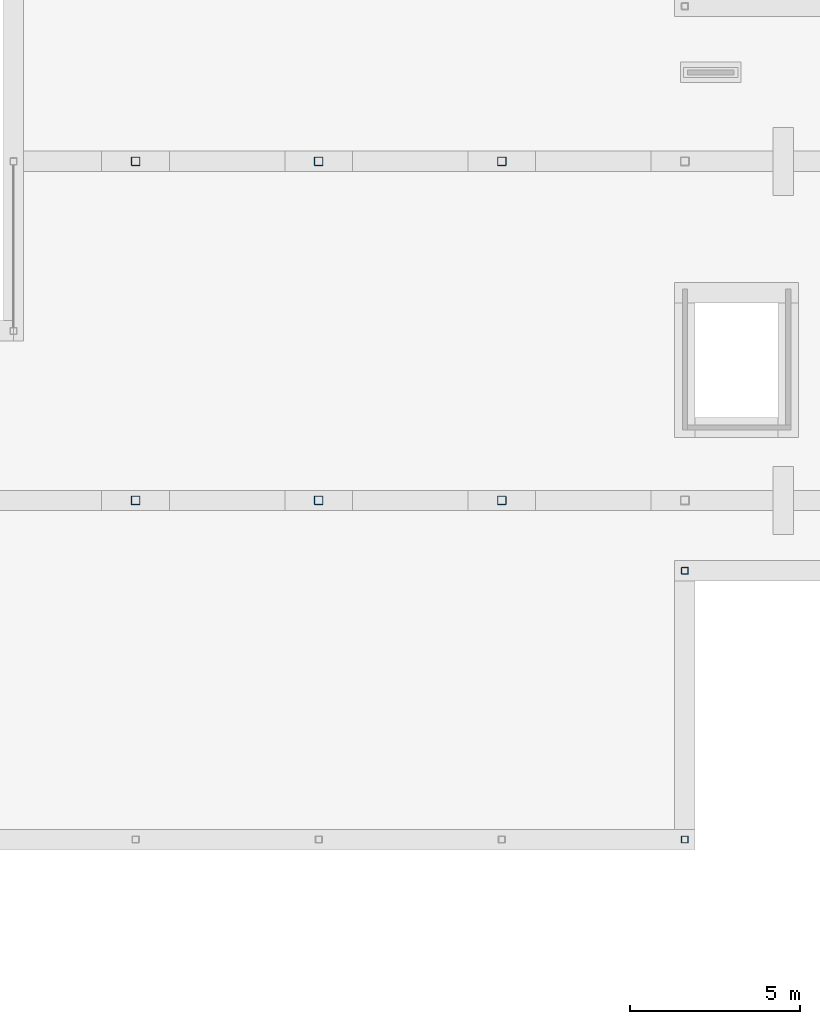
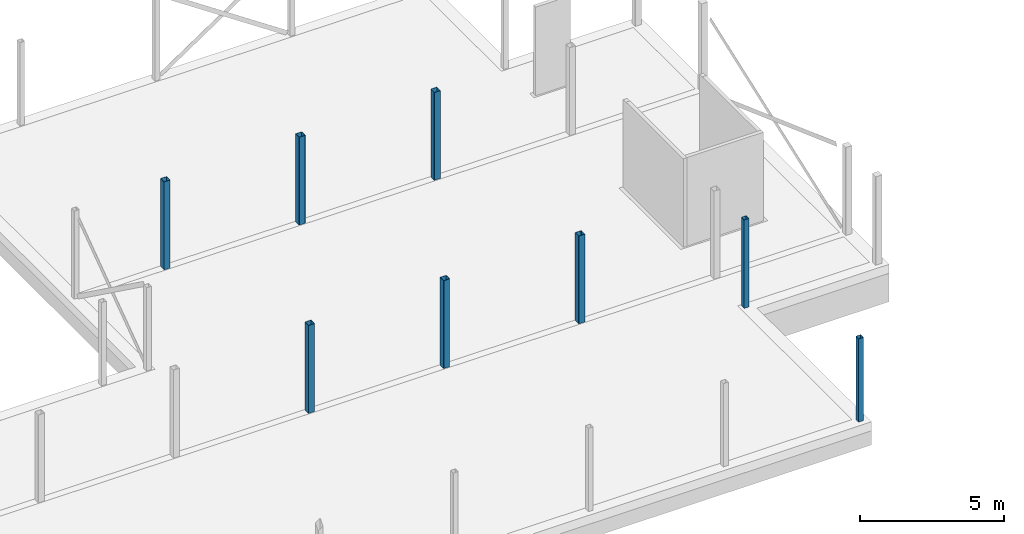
# One storey, part 3 of 12: 8 columns.
"""IFC2X3 building model written with IfcOpenShell, lengths in millimetres."""

from ifc_helpers import new_model, entity, si_unit, converted_unit, derived_unit, direction, frame, frame_2d, origin, place, context, subcontext, project, spatial, polyline, circle_curve, parameter, trimmed, segment, composite_curve, outline, extrude, source, transform, mapped, material, type_object, type_shapes, element, save


model = new_model("IFC2X3")

# Units and contexts
model_context = context("Model", 3, precision=0.01, world=origin(), true_north=direction((6.123031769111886e-17, 1.0)))
body_context = subcontext(model_context, "Body", "Model", "MODEL_VIEW")
ifc_project = project(units=[si_unit("LENGTHUNIT", "METRE", prefix="MILLI"), si_unit("AREAUNIT", "SQUARE_METRE"), si_unit("VOLUMEUNIT", "CUBIC_METRE"), converted_unit("PLANEANGLEUNIT", "DEGREE", entity("IfcPlaneAngleMeasure", 0.017453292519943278), si_unit("PLANEANGLEUNIT", "RADIAN"), dimensions=[0, 0, 0, 0, 0, 0, 0]), si_unit("MASSUNIT", "GRAM", prefix="KILO"), derived_unit("MASSDENSITYUNIT", [(si_unit("MASSUNIT", "GRAM", prefix="KILO"), 1), (si_unit("LENGTHUNIT", "METRE"), -3)]), derived_unit("IONCONCENTRATIONUNIT", [(si_unit("MASSUNIT", "GRAM", prefix="KILO"), 1), (si_unit("LENGTHUNIT", "METRE"), -3)]), derived_unit("MOMENTOFINERTIAUNIT", [(si_unit("LENGTHUNIT", "METRE"), 4)]), si_unit("TIMEUNIT", "SECOND"), si_unit("FREQUENCYUNIT", "HERTZ"), si_unit("THERMODYNAMICTEMPERATUREUNIT", "DEGREE_CELSIUS"), derived_unit("THERMALTRANSMITTANCEUNIT", [(si_unit("MASSUNIT", "GRAM", prefix="KILO"), 1), (si_unit("THERMODYNAMICTEMPERATUREUNIT", "KELVIN"), -1), (si_unit("TIMEUNIT", "SECOND"), -3)]), derived_unit("THERMALCONDUCTANCEUNIT", [(si_unit("MASSUNIT", "GRAM", prefix="KILO"), 1), (si_unit("THERMODYNAMICTEMPERATUREUNIT", "KELVIN"), -1), (si_unit("TIMEUNIT", "SECOND"), -3), (si_unit("LENGTHUNIT", "METRE"), 1)]), derived_unit("VOLUMETRICFLOWRATEUNIT", [(si_unit("LENGTHUNIT", "METRE", prefix="DECI"), 3), (si_unit("TIMEUNIT", "SECOND"), -1)]), derived_unit("MASSFLOWRATEUNIT", [(si_unit("MASSUNIT", "GRAM", prefix="KILO"), 1), (si_unit("TIMEUNIT", "SECOND"), -1)]), derived_unit("ROTATIONALFREQUENCYUNIT", [(si_unit("TIMEUNIT", "SECOND"), -1)]), si_unit("ELECTRICCURRENTUNIT", "AMPERE"), si_unit("ELECTRICVOLTAGEUNIT", "VOLT"), si_unit("POWERUNIT", "WATT"), si_unit("FORCEUNIT", "NEWTON", prefix="KILO"), si_unit("ILLUMINANCEUNIT", "LUX"), si_unit("LUMINOUSFLUXUNIT", "LUMEN"), si_unit("LUMINOUSINTENSITYUNIT", "CANDELA"), si_unit("ENERGYUNIT", "JOULE"), derived_unit("USERDEFINED", [(si_unit("MASSUNIT", "GRAM", prefix="KILO"), -1), (si_unit("LENGTHUNIT", "METRE"), -2), (si_unit("TIMEUNIT", "SECOND"), 3), (si_unit("LUMINOUSFLUXUNIT", "LUMEN"), 1)]), derived_unit("USERDEFINED", [(si_unit("MASSUNIT", "GRAM", prefix="KILO"), 1), (si_unit("TIMEUNIT", "SECOND"), -3), (si_unit("LENGTHUNIT", "METRE"), 3), (si_unit("ELECTRICCURRENTUNIT", "AMPERE"), -2)]), derived_unit("SOUNDPOWERUNIT", [(si_unit("MASSUNIT", "GRAM", prefix="KILO"), 1), (si_unit("TIMEUNIT", "SECOND"), -3), (si_unit("LENGTHUNIT", "METRE"), 2)]), derived_unit("SOUNDPRESSUREUNIT", [(si_unit("MASSUNIT", "GRAM", prefix="KILO"), 1), (si_unit("LENGTHUNIT", "METRE"), -1), (si_unit("TIMEUNIT", "SECOND"), -2)]), derived_unit("LINEARVELOCITYUNIT", [(si_unit("LENGTHUNIT", "METRE"), 1), (si_unit("TIMEUNIT", "SECOND"), -1)]), si_unit("PRESSUREUNIT", "PASCAL"), derived_unit("USERDEFINED", [(si_unit("MASSUNIT", "GRAM", prefix="KILO"), 1), (si_unit("LENGTHUNIT", "METRE"), -2), (si_unit("TIMEUNIT", "SECOND"), -2)]), derived_unit("LINEARFORCEUNIT", [(si_unit("MASSUNIT", "GRAM", prefix="KILO"), 1), (si_unit("TIMEUNIT", "SECOND"), -2)]), derived_unit("PLANARFORCEUNIT", [(si_unit("MASSUNIT", "GRAM", prefix="KILO"), 1), (si_unit("LENGTHUNIT", "METRE"), -1), (si_unit("TIMEUNIT", "SECOND"), -2)]), derived_unit("SPECIFICHEATCAPACITYUNIT", [(si_unit("THERMODYNAMICTEMPERATUREUNIT", "KELVIN"), -1), (si_unit("LENGTHUNIT", "METRE"), 2), (si_unit("TIMEUNIT", "SECOND"), -2)]), derived_unit("HEATFLUXDENSITYUNIT", [(si_unit("MASSUNIT", "GRAM", prefix="KILO"), 1), (si_unit("TIMEUNIT", "SECOND"), -3)]), derived_unit("HEATINGVALUEUNIT", [(si_unit("LENGTHUNIT", "METRE"), 2), (si_unit("TIMEUNIT", "SECOND"), -2)]), derived_unit("VAPORPERMEABILITYUNIT", [(si_unit("LENGTHUNIT", "METRE"), -1), (si_unit("TIMEUNIT", "SECOND"), 1)]), derived_unit("DYNAMICVISCOSITYUNIT", [(si_unit("MASSUNIT", "GRAM", prefix="KILO"), 1), (si_unit("TIMEUNIT", "SECOND"), -1), (si_unit("LENGTHUNIT", "METRE"), -1)]), derived_unit("THERMALEXPANSIONCOEFFICIENTUNIT", [(si_unit("THERMODYNAMICTEMPERATUREUNIT", "KELVIN"), -1)]), derived_unit("MODULUSOFELASTICITYUNIT", [(si_unit("MASSUNIT", "GRAM", prefix="KILO"), 1), (si_unit("LENGTHUNIT", "METRE"), -1), (si_unit("TIMEUNIT", "SECOND"), -2)]), derived_unit("ISOTHERMALMOISTURECAPACITYUNIT", [(si_unit("MASSUNIT", "GRAM", prefix="KILO"), -1), (si_unit("LENGTHUNIT", "METRE"), 3)]), derived_unit("MOISTUREDIFFUSIVITYUNIT", [(si_unit("TIMEUNIT", "SECOND"), -1), (si_unit("LENGTHUNIT", "METRE"), 2)]), derived_unit("MASSPERLENGTHUNIT", [(si_unit("MASSUNIT", "GRAM", prefix="KILO"), 1), (si_unit("LENGTHUNIT", "METRE"), -1)]), derived_unit("THERMALRESISTANCEUNIT", [(si_unit("MASSUNIT", "GRAM", prefix="KILO"), -1), (si_unit("TIMEUNIT", "SECOND"), 3), (si_unit("THERMODYNAMICTEMPERATUREUNIT", "KELVIN"), 1)]), derived_unit("ACCELERATIONUNIT", [(si_unit("LENGTHUNIT", "METRE"), 1), (si_unit("TIMEUNIT", "SECOND"), -2)]), derived_unit("ANGULARVELOCITYUNIT", [(si_unit("TIMEUNIT", "SECOND"), -1), (si_unit("PLANEANGLEUNIT", "RADIAN"), 1)]), derived_unit("LINEARSTIFFNESSUNIT", [(si_unit("MASSUNIT", "GRAM", prefix="KILO"), 1), (si_unit("TIMEUNIT", "SECOND"), -2)]), derived_unit("WARPINGCONSTANTUNIT", [(si_unit("LENGTHUNIT", "METRE"), 6)]), derived_unit("LINEARMOMENTUNIT", [(si_unit("MASSUNIT", "GRAM", prefix="KILO"), 1), (si_unit("LENGTHUNIT", "METRE"), 1), (si_unit("TIMEUNIT", "SECOND"), -2)]), derived_unit("TORQUEUNIT", [(si_unit("MASSUNIT", "GRAM", prefix="KILO"), 1), (si_unit("LENGTHUNIT", "METRE"), 2), (si_unit("TIMEUNIT", "SECOND"), -2)])], contexts=[model_context])

# Site, building, storey
site_placement = place(None, origin())
site = spatial("IfcSite", under=ifc_project, at=site_placement, Name="Default", CompositionType="ELEMENT")
building_placement = place(site_placement, origin())
building = spatial("IfcBuilding", under=site, at=building_placement, CompositionType="ELEMENT")
storey_placement = place(building_placement, origin())
storey = spatial("IfcBuildingStorey", under=building, at=storey_placement, Name="00 begane grond", CompositionType="ELEMENT", Elevation=0.0)

# Columns
ifc_material = material(Name="VRI_staal")
column_type_1 = type_object("IfcColumnType", Name="28_SC_VRI_kolom_staal_koker:K200x200x8", PredefinedType="COLUMN", material=ifc_material)
shared_shape_1 = source(origin(), body_context, "Body", "SweptSolid", [
    extrude(outline(composite_curve([segment(polyline([(-88.0, -100.0), (88.0, -100.0)]), True, "CONTINUOUS"), segment(trimmed(circle_curve(frame_2d((88.0, -88.0), x_axis=(0.0, -1.0)), 12.0), [parameter(359.9999999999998)], [parameter(89.99999999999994)], True, "PARAMETER"), True, "CONTINUOUS"), segment(polyline([(100.0, -88.0), (100.0, 88.0)]), True, "CONTINUOUS"), segment(trimmed(circle_curve(frame_2d((88.0, 88.0), x_axis=(0.0, -1.0)), 12.0), [parameter(90.00000000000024)], [parameter(180.0000000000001)], True, "PARAMETER"), True, "CONTINUOUS"), segment(polyline([(88.0, 100.0), (-88.0, 100.0)]), True, "CONTINUOUS"), segment(trimmed(circle_curve(frame_2d((-88.0, 88.0), x_axis=(0.0, -1.0)), 12.0), [parameter(179.99999999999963)], [parameter(269.9999999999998)], True, "PARAMETER"), True, "CONTINUOUS"), segment(polyline([(-100.0, 88.0), (-100.0, -88.0)]), True, "CONTINUOUS"), segment(trimmed(circle_curve(frame_2d((-88.0, -88.0), x_axis=(0.0, -1.0)), 12.0), [parameter(270.00000000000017)], [parameter(1.0177774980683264e-13)], True, "PARAMETER"), True, "CONTINUOUS")], self_intersect=False), holes=[composite_curve([segment(trimmed(circle_curve(frame_2d((-88.0, 88.0), x_axis=(0.0, -1.0)), 4.0), [parameter(180.0000000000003)], [parameter(270.0000000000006)], True, "PARAMETER"), False, "CONTINUOUS"), segment(polyline([(-88.0, 92.0), (88.0, 92.0)]), True, "CONTINUOUS"), segment(trimmed(circle_curve(frame_2d((88.0, 88.0), x_axis=(0.0, -1.0)), 4.0), [parameter(90.00000000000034)], [parameter(179.99999999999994)], True, "PARAMETER"), False, "CONTINUOUS"), segment(polyline([(92.0, 88.0), (92.0, -88.0)]), True, "CONTINUOUS"), segment(trimmed(circle_curve(frame_2d((88.0, -88.0), x_axis=(0.0, -1.0)), 4.0), [parameter(5.088887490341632e-13)], [parameter(90.00000000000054)], True, "PARAMETER"), False, "CONTINUOUS"), segment(polyline([(88.0, -92.0), (-88.0, -92.0)]), True, "CONTINUOUS"), segment(trimmed(circle_curve(frame_2d((-88.0, -88.0), x_axis=(0.0, -1.0)), 4.0), [parameter(269.9999999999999)], [parameter(0.0)], True, "PARAMETER"), False, "CONTINUOUS"), segment(polyline([(-92.0, -88.0), (-92.0, 88.0)]), True, "CONTINUOUS")], self_intersect=False)]), frame((-5.0, 0.0, -80.0), z_axis=(0.0, 0.0, 1.0), x_axis=(0.0, 1.0, 0.0)), (0.0, 0.0, 1.0), 3515.0),
])
type_shapes(column_type_1, [shared_shape_1])
column_1_placement = place(storey_placement, frame((53205.0, 10000.0, 0.0)))
element("IfcColumn", 1, at=column_1_placement, inside=storey, type_object=column_type_1, material=ifc_material, Name="28_SC_VRI_kolom_staal_koker:K200x200x8", ObjectType="28_SC_VRI_kolom_staal_koker:K200x200x8", context=body_context, shape_type="MappedRepresentation", body=[
    mapped(shared_shape_1, transform((0.0, 0.0, 0.0), scale=1.0)),
])
column_type_2 = type_object("IfcColumnType", Name="28_SC_VRI_kolom_staal_koker:K200x200x8", PredefinedType="COLUMN", material=ifc_material)
shared_shape_2 = source(origin(), body_context, "Body", "SweptSolid", [
    extrude(outline(composite_curve([segment(polyline([(-88.0, -100.0), (88.0, -100.0)]), True, "CONTINUOUS"), segment(trimmed(circle_curve(frame_2d((88.0, -88.0), x_axis=(0.0, -1.0)), 12.0), [parameter(359.9999999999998)], [parameter(89.99999999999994)], True, "PARAMETER"), True, "CONTINUOUS"), segment(polyline([(100.0, -88.0), (100.0, 88.0)]), True, "CONTINUOUS"), segment(trimmed(circle_curve(frame_2d((88.0, 88.0), x_axis=(0.0, -1.0)), 12.0), [parameter(90.00000000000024)], [parameter(180.0000000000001)], True, "PARAMETER"), True, "CONTINUOUS"), segment(polyline([(88.0, 100.0), (-88.0, 100.0)]), True, "CONTINUOUS"), segment(trimmed(circle_curve(frame_2d((-88.0, 88.0), x_axis=(0.0, -1.0)), 12.0), [parameter(179.99999999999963)], [parameter(269.9999999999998)], True, "PARAMETER"), True, "CONTINUOUS"), segment(polyline([(-100.0, 88.0), (-100.0, -88.0)]), True, "CONTINUOUS"), segment(trimmed(circle_curve(frame_2d((-88.0, -88.0), x_axis=(0.0, -1.0)), 12.0), [parameter(270.00000000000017)], [parameter(1.0177774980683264e-13)], True, "PARAMETER"), True, "CONTINUOUS")], self_intersect=False), holes=[composite_curve([segment(trimmed(circle_curve(frame_2d((-88.0, 88.0), x_axis=(0.0, -1.0)), 4.0), [parameter(180.0000000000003)], [parameter(270.0000000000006)], True, "PARAMETER"), False, "CONTINUOUS"), segment(polyline([(-88.0, 92.0), (88.0, 92.0)]), True, "CONTINUOUS"), segment(trimmed(circle_curve(frame_2d((88.0, 88.0), x_axis=(0.0, -1.0)), 4.0), [parameter(90.00000000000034)], [parameter(179.99999999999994)], True, "PARAMETER"), False, "CONTINUOUS"), segment(polyline([(92.0, 88.0), (92.0, -88.0)]), True, "CONTINUOUS"), segment(trimmed(circle_curve(frame_2d((88.0, -88.0), x_axis=(0.0, -1.0)), 4.0), [parameter(5.088887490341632e-13)], [parameter(90.00000000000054)], True, "PARAMETER"), False, "CONTINUOUS"), segment(polyline([(88.0, -92.0), (-88.0, -92.0)]), True, "CONTINUOUS"), segment(trimmed(circle_curve(frame_2d((-88.0, -88.0), x_axis=(0.0, -1.0)), 4.0), [parameter(269.9999999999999)], [parameter(0.0)], True, "PARAMETER"), False, "CONTINUOUS"), segment(polyline([(-92.0, -88.0), (-92.0, 88.0)]), True, "CONTINUOUS")], self_intersect=False)]), frame((-5.0, 0.0, -80.0), z_axis=(0.0, 0.0, 1.0), x_axis=(0.0, 1.0, 0.0)), (0.0, 0.0, 1.0), 3735.0),
])
type_shapes(column_type_2, [shared_shape_2])
column_2_placement = place(storey_placement, frame((53205.0, 17925.0, 0.0)))
element("IfcColumn", 2, at=column_2_placement, inside=storey, type_object=column_type_2, material=ifc_material, Name="28_SC_VRI_kolom_staal_koker:K200x200x8", ObjectType="28_SC_VRI_kolom_staal_koker:K200x200x8", context=body_context, shape_type="MappedRepresentation", body=[
    mapped(shared_shape_2, transform((0.0, 0.0, 0.0), scale=1.0)),
])
column_type_3 = type_object("IfcColumnType", Name="28_SC_VRI_kolom_staal_koker:K250x250x8", PredefinedType="COLUMN", material=ifc_material)
shared_shape_3 = source(origin(), body_context, "Body", "SweptSolid", [
    extrude(outline(composite_curve([segment(polyline([(-113.0, -125.0), (113.0, -125.0)]), True, "CONTINUOUS"), segment(trimmed(circle_curve(frame_2d((113.0, -113.0), x_axis=(0.0, -1.0)), 12.0), [parameter(359.99999999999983)], [parameter(89.99999999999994)], True, "PARAMETER"), True, "CONTINUOUS"), segment(polyline([(125.0, -113.0), (125.0, 113.0)]), True, "CONTINUOUS"), segment(trimmed(circle_curve(frame_2d((113.0, 113.0), x_axis=(0.0, -1.0)), 12.0), [parameter(90.00000000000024)], [parameter(180.00000000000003)], True, "PARAMETER"), True, "CONTINUOUS"), segment(polyline([(113.0, 125.0), (-113.0, 125.0)]), True, "CONTINUOUS"), segment(trimmed(circle_curve(frame_2d((-113.0, 113.0), x_axis=(0.0, -1.0)), 12.0), [parameter(179.99999999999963)], [parameter(269.9999999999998)], True, "PARAMETER"), True, "CONTINUOUS"), segment(polyline([(-125.0, 113.0), (-125.0, -113.0)]), True, "CONTINUOUS"), segment(trimmed(circle_curve(frame_2d((-113.0, -113.0), x_axis=(0.0, -1.0)), 12.0), [parameter(270.00000000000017)], [parameter(1.0177774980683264e-13)], True, "PARAMETER"), True, "CONTINUOUS")], self_intersect=False), holes=[composite_curve([segment(trimmed(circle_curve(frame_2d((-113.0, 113.0), x_axis=(0.0, -1.0)), 4.0), [parameter(180.0000000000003)], [parameter(270.0000000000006)], True, "PARAMETER"), False, "CONTINUOUS"), segment(polyline([(-113.0, 117.0), (113.0, 117.0)]), True, "CONTINUOUS"), segment(trimmed(circle_curve(frame_2d((113.0, 113.0), x_axis=(0.0, -1.0)), 4.0), [parameter(90.00000000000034)], [parameter(179.9999999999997)], True, "PARAMETER"), False, "CONTINUOUS"), segment(polyline([(117.0, 113.0), (117.0, -113.0)]), True, "CONTINUOUS"), segment(trimmed(circle_curve(frame_2d((113.0, -113.0), x_axis=(0.0, -1.0)), 4.0), [parameter(5.088887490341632e-13)], [parameter(90.00000000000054)], True, "PARAMETER"), False, "CONTINUOUS"), segment(polyline([(113.0, -117.0), (-113.0, -117.0)]), True, "CONTINUOUS"), segment(trimmed(circle_curve(frame_2d((-113.0, -113.0), x_axis=(0.0, -1.0)), 4.0), [parameter(269.9999999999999)], [parameter(0.0)], True, "PARAMETER"), False, "CONTINUOUS"), segment(polyline([(-117.0, -113.0), (-117.0, 113.0)]), True, "CONTINUOUS")], self_intersect=False)]), frame((-5.0, 0.0, -80.0), z_axis=(0.0, 0.0, 1.0), x_axis=(0.0, 1.0, 0.0)), (0.0, 0.0, 1.0), 3715.0),
])
type_shapes(column_type_3, [shared_shape_3])
for number, where in (
    (3, (42405.0, 20000.0, 0.0)),
    (4, (37005.0, 20000.0, 0.0)),
    (5, (42405.0, 30000.0, 0.0)),
    (6, (37005.0, 30000.0, 0.0)),
    (7, (47805.0, 20000.0, 0.0)),
    (8, (47805.0, 30000.0, 0.0)),
):
    element("IfcColumn", number, at=place(storey_placement, frame(where)), inside=storey, type_object=column_type_3, material=ifc_material, Name="28_SC_VRI_kolom_staal_koker:K250x250x8", ObjectType="28_SC_VRI_kolom_staal_koker:K250x250x8", context=body_context, shape_type="MappedRepresentation", body=[
        mapped(shared_shape_3, transform((0.0, 0.0, 0.0), scale=1.0)),
    ])

save(model, "model.ifc")
